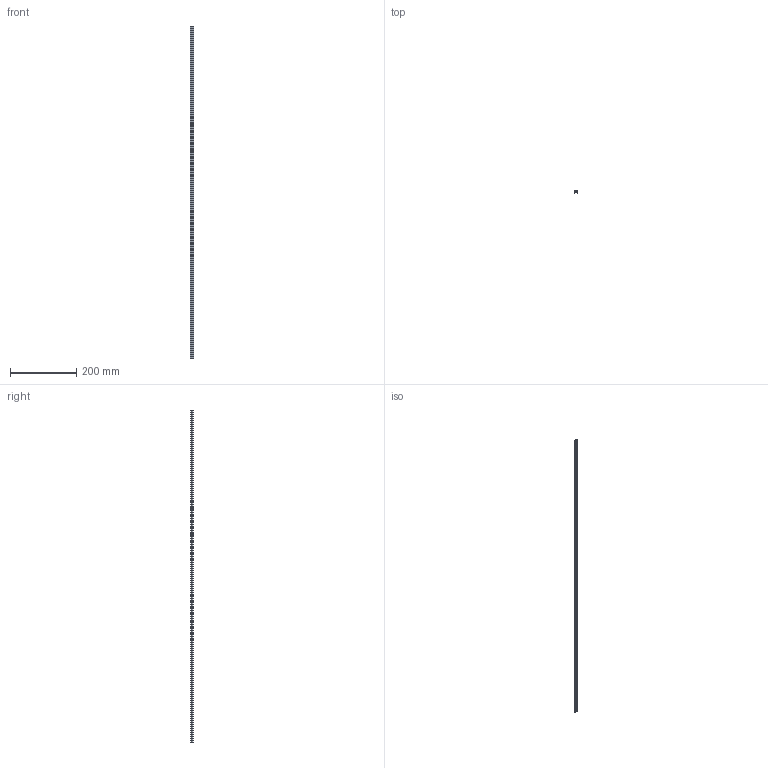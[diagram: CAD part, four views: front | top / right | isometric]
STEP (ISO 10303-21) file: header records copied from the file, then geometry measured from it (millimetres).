
FILE_DESCRIPTION(/* description */ ('www.motedis.com/part/PSIL08BR','CAx-IF Rec.Pracs.---Representation and Presentation of Product Manufacturing Information (PMI)---4.0---2014-10-13'),/* implementation_level */ '2;1');
FILE_NAME(/* name */ 'Motedis_PSIL08BR.stp',/* time_stamp */ '2026-10-15T08:29:25+02:00',/* author */ ('Motedis'),/* organization */ ('Motedis GmbH'),/* preprocessor_version */ 'ST-DEVELOPER v20.1',/* originating_system */ 'Autodesk Inventor 2026',/* authorisation */ 'Motedis GmbH');
FILE_SCHEMA (('AP242_MANAGED_MODEL_BASED_3D_ENGINEERING_MIM_LF { 1 0 10303 442 2 1 4 }'));
Length unit declared in the file: millimetre
Products named in the file (1): Motedis_PSIL08BR
Bounding box: 10.2 x 8.49 x 1000 mm (x, y, z)
Volume: 19049.5 mm3; surface area: 58932.6 mm2
Topology: 1 solids, 1 shells, 38 faces, 108 edges, 72 vertices
Faces by surface type: plane 22, cylinder 16
Entity records: 1409 total; most frequent: DIRECTION 250, CARTESIAN_POINT 240, ORIENTED_EDGE 216, EDGE_CURVE 108, AXIS2_PLACEMENT_3D 87, LINE 76, VECTOR 76, VERTEX_POINT 72
